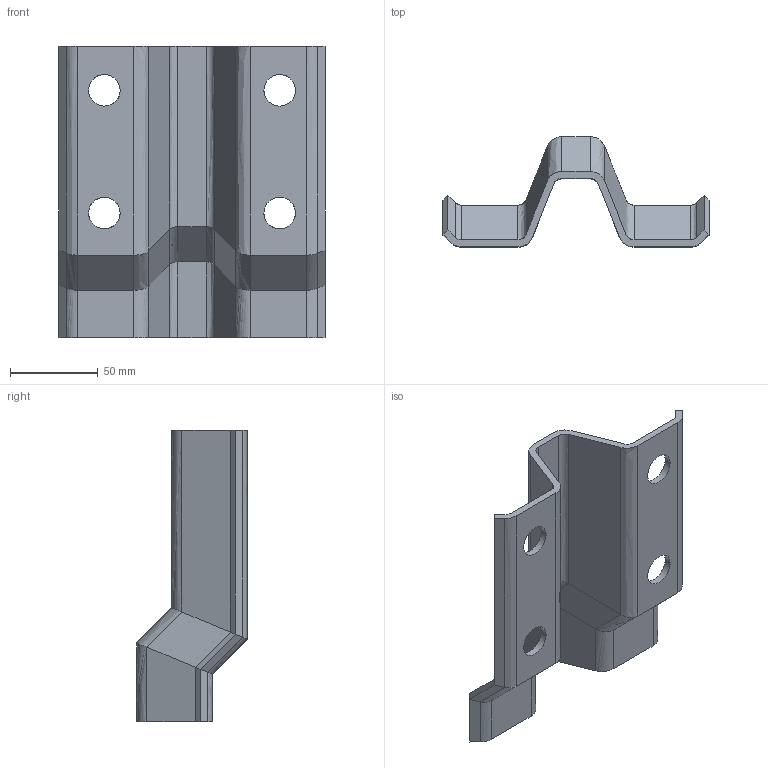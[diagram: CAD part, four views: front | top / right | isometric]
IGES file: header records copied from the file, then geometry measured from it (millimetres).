
Global section: file name: C200; native system: Autodesk RealDWG; preprocessor: Autodesk Translation Framework DWG producer (atf_dwg_producer); organization: unknown; date: 20230703.102311; units: centimetre
Bounding box: 151.72 x 63 x 166 mm (x, y, z)
Volume: 136622.7 mm3; surface area: 72229 mm2
Topology: 1 solids, 1 shells, 90 faces, 208 edges, 120 vertices
Faces by surface type: bspline 90
